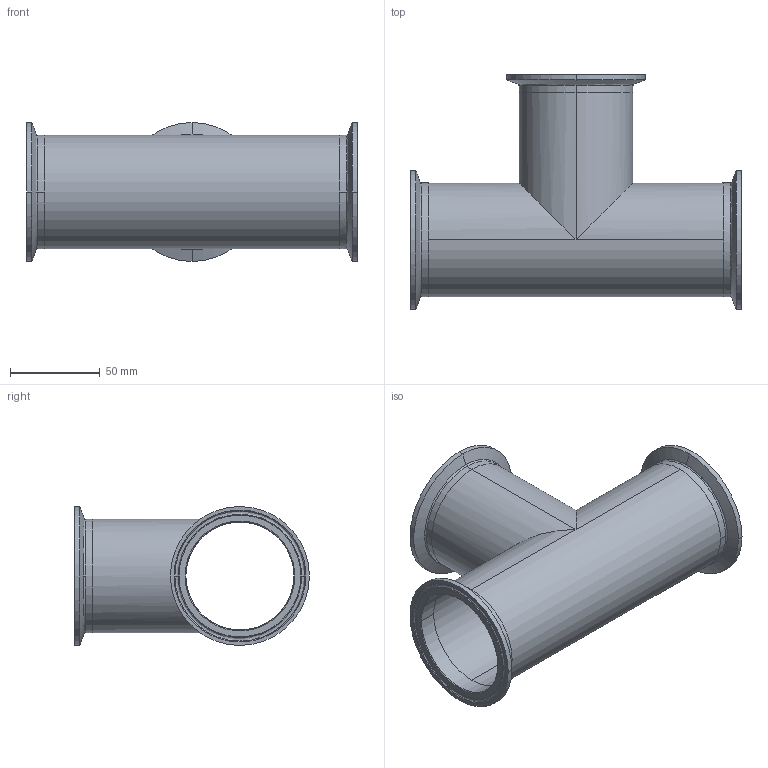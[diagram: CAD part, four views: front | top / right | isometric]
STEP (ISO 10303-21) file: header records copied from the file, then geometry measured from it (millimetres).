
FILE_DESCRIPTION (( 'STEP AP214' ), '1' );
FILE_NAME ('TEG76L2.5-...STEP', '2016-05-23T07:03:35', ( 'eran' ), ( '' ), 'SwSTEP 2.0', 'SolidWorks 2016', '' );
FILE_SCHEMA (( 'AUTOMOTIVE_DESIGN' ));
Length unit declared in the file: millimetre
Products named in the file (1): TEG76L2.5-..
Bounding box: 184.2 x 130.8 x 77.39 mm (x, y, z)
Volume: 93875.4 mm3; surface area: 103497.8 mm2
Topology: 4 solids, 4 shells, 88 faces, 220 edges, 142 vertices
Faces by surface type: bspline 30, cylinder 28, cone 18, plane 12
Entity records: 4778 total; most frequent: CARTESIAN_POINT 2617, DIRECTION 466, ORIENTED_EDGE 440, EDGE_CURVE 220, AXIS2_PLACEMENT_3D 209, CIRCLE 150, VERTEX_POINT 142, EDGE_LOOP 100
